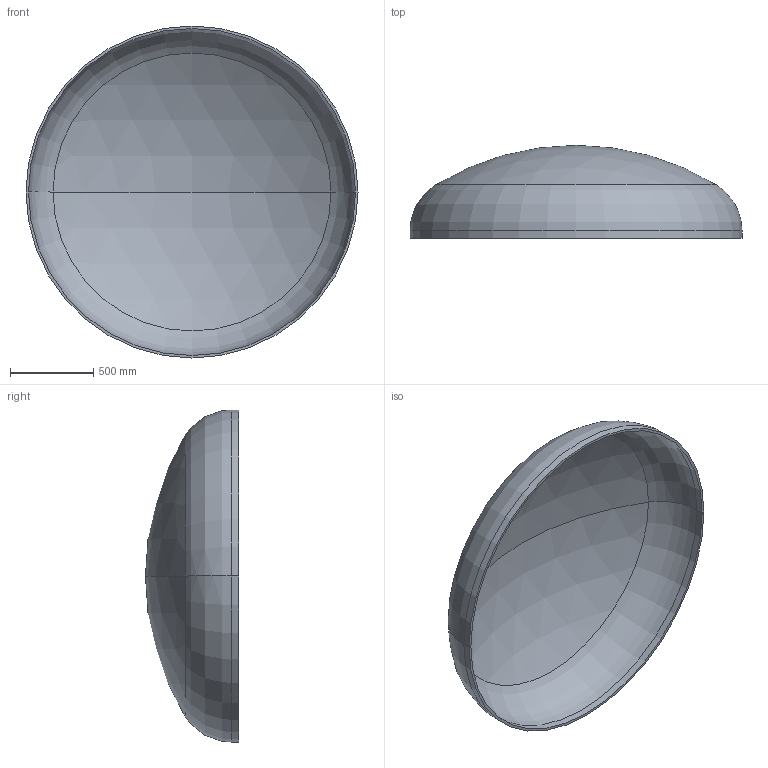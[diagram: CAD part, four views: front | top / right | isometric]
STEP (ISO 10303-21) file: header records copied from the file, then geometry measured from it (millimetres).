
FILE_DESCRIPTION (( 'STEP AP203' ), '1' );
FILE_NAME ('DIN 28013 Korbbogenform_-_Boden DIN 28013 - 2000 x 45 - I - s=15.step', '2016-07-01T13:38:35', ( '' ), ( '' ), 'SwSTEP 2.0', 'SolidWorks 2013', '' );
FILE_SCHEMA (( 'CONFIG_CONTROL_DESIGN' ));
Length unit declared in the file: millimetre
Products named in the file (1): DIN 28013 Korbbogenform_-_Boden DIN 28013 - 2000 x 45 - I - s=15
Bounding box: 2000 x 560.69 x 2000 mm (x, y, z)
Volume: 68913823.8 mm3; surface area: 9282518.5 mm2
Topology: 1 solids, 1 shells, 13 faces, 24 edges, 14 vertices
Faces by surface type: torus 4, cylinder 4, sphere 4, plane 1
Entity records: 407 total; most frequent: DIRECTION 72, CARTESIAN_POINT 52, ORIENTED_EDGE 48, AXIS2_PLACEMENT_3D 34, EDGE_CURVE 24, CIRCLE 20, VERTEX_POINT 14, EDGE_LOOP 14
